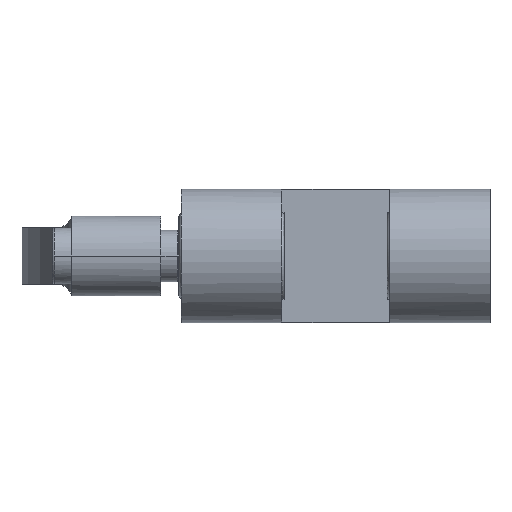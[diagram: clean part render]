
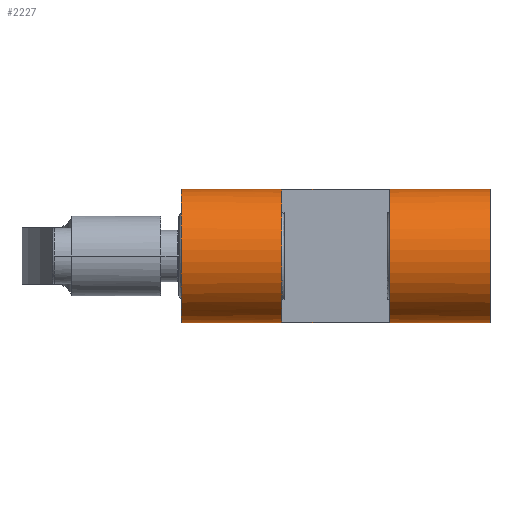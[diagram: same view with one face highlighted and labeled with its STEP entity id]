
A CAD part, front view. The second image highlights one B-rep face of the part: STEP entity #2227.
In plain terms, the highlighted cylindrical face has radius 13 mm (diameter 26 mm), a partial arc.
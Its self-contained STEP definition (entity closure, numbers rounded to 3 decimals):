
#1=CARTESIAN_POINT('',(-30.,3.,0.));
#2=DIRECTION('',(1.,0.,0.));
#3=DIRECTION('',(0.,0.538,0.843));
#4=AXIS2_PLACEMENT_3D('',#1,#2,#3);
#20=DIRECTION('',(1.,0.,0.));
#21=VECTOR('',#20,60.);
#22=CARTESIAN_POINT('',(-30.,10.,10.954));
#23=LINE('',#22,#21);
#24=CARTESIAN_POINT('',(-10.5,3.,0.));
#25=DIRECTION('',(1.,0.,0.));
#26=DIRECTION('',(0.,-0.154,0.988));
#27=AXIS2_PLACEMENT_3D('',#24,#25,#26);
#29=DIRECTION('',(1.,0.,0.));
#30=VECTOR('',#29,21.);
#31=CARTESIAN_POINT('',(-10.5,1.,-12.845));
#32=LINE('',#31,#30);
#33=CARTESIAN_POINT('',(10.5,3.,0.));
#34=DIRECTION('',(1.,0.,0.));
#35=DIRECTION('',(0.,-0.154,0.988));
#36=AXIS2_PLACEMENT_3D('',#33,#34,#35);
#38=DIRECTION('',(1.,0.,0.));
#39=VECTOR('',#38,21.);
#40=CARTESIAN_POINT('',(-10.5,1.,12.845));
#41=LINE('',#40,#39);
#42=DIRECTION('',(1.,0.,0.));
#43=VECTOR('',#42,60.);
#44=CARTESIAN_POINT('',(-30.,10.,-10.954));
#45=LINE('',#44,#43);
#86=CARTESIAN_POINT('',(30.,3.,0.));
#87=DIRECTION('',(1.,0.,0.));
#88=DIRECTION('',(0.,0.538,0.843));
#89=AXIS2_PLACEMENT_3D('',#86,#87,#88);
#1799=CARTESIAN_POINT('',(-30.,10.,-10.954));
#1800=CARTESIAN_POINT('',(-30.,10.,10.954));
#1801=VERTEX_POINT('',#1799);
#1802=VERTEX_POINT('',#1800);
#1803=CARTESIAN_POINT('',(30.,10.,-10.954));
#1804=CARTESIAN_POINT('',(30.,10.,10.954));
#1805=VERTEX_POINT('',#1803);
#1806=VERTEX_POINT('',#1804);
#1879=CARTESIAN_POINT('',(-10.5,1.,12.845));
#1880=VERTEX_POINT('',#1879);
#1881=CARTESIAN_POINT('',(-10.5,1.,-12.845));
#1882=VERTEX_POINT('',#1881);
#1883=CARTESIAN_POINT('',(10.5,1.,12.845));
#1884=VERTEX_POINT('',#1883);
#1885=CARTESIAN_POINT('',(10.5,1.,-12.845));
#1886=VERTEX_POINT('',#1885);
#2203=CARTESIAN_POINT('',(-30.,3.,0.));
#2204=DIRECTION('',(1.,0.,0.));
#2205=DIRECTION('',(0.,-1.,0.));
#2206=AXIS2_PLACEMENT_3D('',#2203,#2204,#2205);
#2207=CYLINDRICAL_SURFACE('',#2206,13.);
#2208=ORIENTED_EDGE('',*,*,#2190,.F.);
#2210=ORIENTED_EDGE('',*,*,#2209,.T.);
#2212=ORIENTED_EDGE('',*,*,#2211,.T.);
#2214=ORIENTED_EDGE('',*,*,#2213,.F.);
#2215=EDGE_LOOP('',(#2208,#2210,#2212,#2214));
#2216=FACE_OUTER_BOUND('',#2215,.F.);
#2218=ORIENTED_EDGE('',*,*,#2217,.T.);
#2220=ORIENTED_EDGE('',*,*,#2219,.T.);
#2222=ORIENTED_EDGE('',*,*,#2221,.F.);
#2224=ORIENTED_EDGE('',*,*,#2223,.F.);
#2225=EDGE_LOOP('',(#2218,#2220,#2222,#2224));
#2226=FACE_BOUND('',#2225,.F.);
#2227=ADVANCED_FACE('',(#2216,#2226),#2207,.T.);
#5=CIRCLE('',#4,13.);
#28=CIRCLE('',#27,13.);
#37=CIRCLE('',#36,13.);
#90=CIRCLE('',#89,13.);
#2190=EDGE_CURVE('',#1802,#1801,#5,.T.);
#2209=EDGE_CURVE('',#1802,#1806,#23,.T.);
#2211=EDGE_CURVE('',#1806,#1805,#90,.T.);
#2213=EDGE_CURVE('',#1801,#1805,#45,.T.);
#2217=EDGE_CURVE('',#1880,#1882,#28,.T.);
#2219=EDGE_CURVE('',#1882,#1886,#32,.T.);
#2221=EDGE_CURVE('',#1884,#1886,#37,.T.);
#2223=EDGE_CURVE('',#1880,#1884,#41,.T.);
